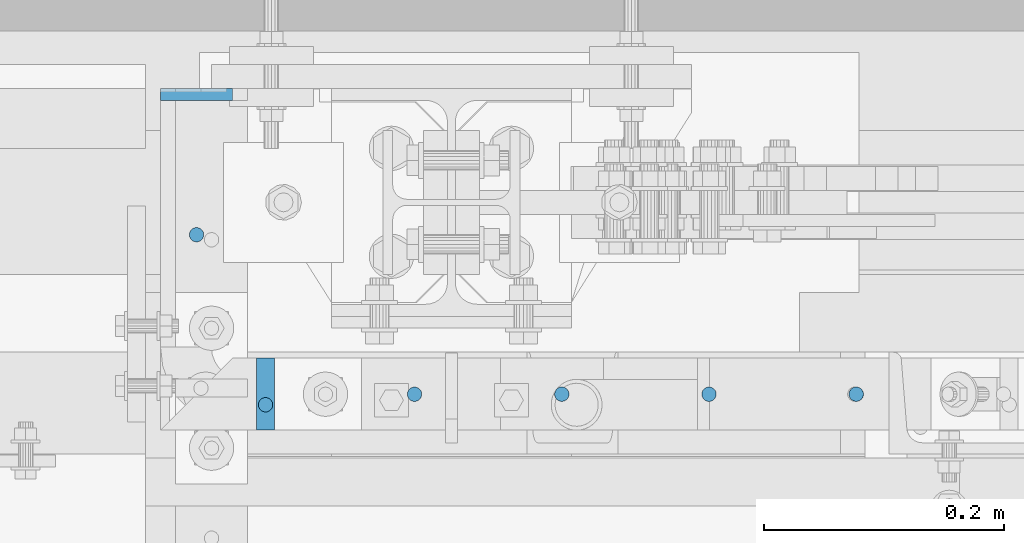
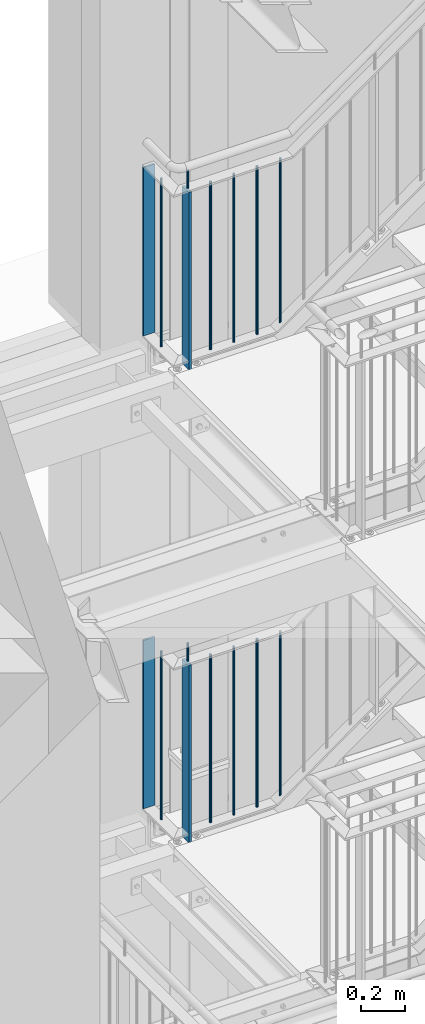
# One storey, part 64 of 831: 16 columns.
"""IFC2X3 building model written with IfcOpenShell, lengths in millimetres."""

from ifc_helpers import new_model, entity, si_unit, converted_unit, frame, origin, origin_with_axes, origin_2d, place, context, project, spatial, rectangle, circle, extrude, clip, halfspace, material, element, save


model = new_model("IFC2X3")

# Units and contexts
model_context = context("Model", 3, precision=1e-09, world=origin_with_axes())
ifc_project = project(units=[si_unit("LENGTHUNIT", "METRE", prefix="MILLI"), si_unit("AREAUNIT", "SQUARE_METRE"), si_unit("VOLUMEUNIT", "CUBIC_METRE"), converted_unit("PLANEANGLEUNIT", "DEGREE", entity("IfcPlaneAngleMeasure", 0.01745329), si_unit("PLANEANGLEUNIT", "RADIAN"), dimensions=[0, 0, 0, 0, 0, 0, 0])], contexts=[model_context])

# Site, building, storey
site_placement = place(None, origin_with_axes())
site = spatial("IfcSite", under=ifc_project, at=site_placement, Name="Site", CompositionType="ELEMENT")
building_placement = place(site_placement, origin_with_axes())
building = spatial("IfcBuilding", under=site, at=building_placement, Name="Struktur 1", CompositionType="ELEMENT")
storey_placement = place(building_placement, origin_with_axes())
storey = spatial("IfcBuildingStorey", under=building, at=storey_placement, Name="Default Storey", CompositionType="ELEMENT", Elevation=0.0)

# Columns
ifc_material = material(Name="S235JR")
column_1_placement = place(None, frame((4701.713402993, 7356.736971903, 13618.723292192), z_axis=(0.0, 0.0, 1.0), x_axis=(1.0, 0.0, 0.0)))
element("IfcColumn", 1, at=column_1_placement, inside=storey, material=ifc_material, Name="Railing_Post_Landing#0", ObjectType="Railing_Post_Landing#0", context=model_context, shape_type="Clipping", body=[
    clip(clip(extrude(rectangle(XDim=15.0, YDim=60.0, at=origin_2d()), origin(), (0.0, 0.0, -1.0), 1070.646584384), halfspace(frame((-4701.713402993, -7356.736971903, -1019.722292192), z_axis=(0.0, 0.0, 1.0), x_axis=(1.0, 0.0, 0.0)), True)), halfspace(frame((-4701.713402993, -7356.736971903, -30.924292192), z_axis=(0.0, 0.0, -1.0), x_axis=(-1.0, 0.0, 0.0)), True)),
])
column_2_placement = place(None, frame((4825.963402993, 7356.736971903, 13601.285281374), z_axis=(0.0, 0.0, 1.0), x_axis=(1.0, 0.0, 0.0)))
element("IfcColumn", 2, at=column_2_placement, inside=storey, material=ifc_material, Name="Railing_Picket_Landing#0", ObjectType="Railing_Picket_Landing#0", context=model_context, shape_type="Clipping", body=[
    clip(clip(extrude(circle(Radius=6.0, at=origin_2d()), origin(), (0.0, 0.0, -1.0), 965.770562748), halfspace(frame((-4825.963402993, -7356.736971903, -13.486281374), z_axis=(0.0, 0.0, -1.0), x_axis=(-1.0, 0.0, 0.0)), True)), halfspace(frame((-4825.963402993, -7356.736971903, -952.284281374), z_axis=(0.0, 0.0, 1.0), x_axis=(1.0, 0.0, 0.0)), True)),
])
column_3_placement = place(None, frame((4948.713426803, 7356.736971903, 13601.285281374), z_axis=(0.0, 0.0, 1.0), x_axis=(1.0, 0.0, 0.0)))
element("IfcColumn", 3, at=column_3_placement, inside=storey, material=ifc_material, Name="Railing_Picket_Landing#1", ObjectType="Railing_Picket_Landing#1", context=model_context, shape_type="Clipping", body=[
    clip(clip(extrude(circle(Radius=6.0, at=origin_2d()), origin(), (0.0, 0.0, -1.0), 965.770562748), halfspace(frame((-4948.713426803, -7356.736971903, -13.486281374), z_axis=(0.0, 0.0, -1.0), x_axis=(-1.0, 0.0, 0.0)), True)), halfspace(frame((-4948.713426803, -7356.736971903, -952.284281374), z_axis=(0.0, 0.0, 1.0), x_axis=(1.0, 0.0, 0.0)), True)),
])
column_4_placement = place(None, frame((5071.463450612, 7356.736971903, 13601.285281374), z_axis=(0.0, 0.0, 1.0), x_axis=(1.0, 0.0, 0.0)))
element("IfcColumn", 4, at=column_4_placement, inside=storey, material=ifc_material, Name="Railing_Picket_Landing#2", ObjectType="Railing_Picket_Landing#2", context=model_context, shape_type="Clipping", body=[
    clip(clip(extrude(circle(Radius=6.0, at=origin_2d()), origin(), (0.0, 0.0, -1.0), 965.770562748), halfspace(frame((-5071.463450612, -7356.736971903, -13.486281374), z_axis=(0.0, 0.0, -1.0), x_axis=(-1.0, 0.0, 0.0)), True)), halfspace(frame((-5071.463450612, -7356.736971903, -952.284281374), z_axis=(0.0, 0.0, 1.0), x_axis=(1.0, 0.0, 0.0)), True)),
])
column_5_placement = place(None, frame((5194.213474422, 7356.736971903, 13587.8), z_axis=(0.0, 0.0, 1.0), x_axis=(1.0, 0.0, 0.0)))
element("IfcColumn", 5, at=column_5_placement, inside=storey, material=ifc_material, Name="Railing_Picket_Stair#3", ObjectType="Railing_Picket_Stair#3", context=model_context, shape_type="Clipping", body=[
    clip(extrude(circle(Radius=6.0, at=origin_2d()), origin(), (0.0, 0.0, -1.0), 923.624764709), halfspace(frame((-9428.542322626, -7356.736971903, -7738.480453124), z_axis=(-0.586383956, 0.0, 0.810033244), x_axis=(0.0, -1.0, 0.0)), True)),
])
column_6_placement = place(None, frame((4701.713402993, 7347.936971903, 13706.285281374), z_axis=(0.0, 0.0, 1.0), x_axis=(0.0, -1.0, 0.0)))
element("IfcColumn", 6, at=column_6_placement, inside=storey, material=ifc_material, Name="Bar#0", ObjectType="Bar#0", context=model_context, shape_type="Clipping", body=[
    clip(clip(extrude(circle(Radius=6.0, at=origin_2d()), origin(), (0.0, 0.0, -1.0), 116.970562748), halfspace(frame((7347.936971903, -4701.713402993, -8.486281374), z_axis=(0.0, 0.0, -1.0), x_axis=(0.0, -1.0, 0.0)), True)), halfspace(frame((7347.936971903, -4701.713402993, -108.484281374), z_axis=(0.0, 0.0, 1.0), x_axis=(0.0, 1.0, 0.0)), True)),
])
column_7_placement = place(None, frame((4701.713402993, 7356.736971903, 16253.723292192), z_axis=(0.0, 0.0, 1.0), x_axis=(1.0, 0.0, 0.0)))
element("IfcColumn", 7, at=column_7_placement, inside=storey, material=ifc_material, Name="Railing_Post_Landing#0", ObjectType="Railing_Post_Landing#0", context=model_context, shape_type="Clipping", body=[
    clip(clip(extrude(rectangle(XDim=15.0, YDim=60.0, at=origin_2d()), origin(), (0.0, 0.0, -1.0), 1070.646584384), halfspace(frame((-4701.713402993, -7356.736971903, -1019.722292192), z_axis=(0.0, 0.0, 1.0), x_axis=(1.0, 0.0, 0.0)), True)), halfspace(frame((-4701.713402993, -7356.736971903, -30.924292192), z_axis=(0.0, 0.0, -1.0), x_axis=(-1.0, 0.0, 0.0)), True)),
])
column_8_placement = place(None, frame((4825.963402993, 7356.736971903, 16236.285281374), z_axis=(0.0, 0.0, 1.0), x_axis=(1.0, 0.0, 0.0)))
element("IfcColumn", 8, at=column_8_placement, inside=storey, material=ifc_material, Name="Railing_Picket_Landing#0", ObjectType="Railing_Picket_Landing#0", context=model_context, shape_type="Clipping", body=[
    clip(clip(extrude(circle(Radius=6.0, at=origin_2d()), origin(), (0.0, 0.0, -1.0), 965.770562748), halfspace(frame((-4825.963402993, -7356.736971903, -13.486281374), z_axis=(0.0, 0.0, -1.0), x_axis=(-1.0, 0.0, 0.0)), True)), halfspace(frame((-4825.963402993, -7356.736971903, -952.284281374), z_axis=(0.0, 0.0, 1.0), x_axis=(1.0, 0.0, 0.0)), True)),
])
column_9_placement = place(None, frame((4948.713426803, 7356.736971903, 16236.285281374), z_axis=(0.0, 0.0, 1.0), x_axis=(1.0, 0.0, 0.0)))
element("IfcColumn", 9, at=column_9_placement, inside=storey, material=ifc_material, Name="Railing_Picket_Landing#1", ObjectType="Railing_Picket_Landing#1", context=model_context, shape_type="Clipping", body=[
    clip(clip(extrude(circle(Radius=6.0, at=origin_2d()), origin(), (0.0, 0.0, -1.0), 965.770562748), halfspace(frame((-4948.713426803, -7356.736971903, -13.486281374), z_axis=(0.0, 0.0, -1.0), x_axis=(-1.0, 0.0, 0.0)), True)), halfspace(frame((-4948.713426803, -7356.736971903, -952.284281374), z_axis=(0.0, 0.0, 1.0), x_axis=(1.0, 0.0, 0.0)), True)),
])
column_10_placement = place(None, frame((5071.463450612, 7356.736971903, 16236.285281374), z_axis=(0.0, 0.0, 1.0), x_axis=(1.0, 0.0, 0.0)))
element("IfcColumn", 10, at=column_10_placement, inside=storey, material=ifc_material, Name="Railing_Picket_Landing#2", ObjectType="Railing_Picket_Landing#2", context=model_context, shape_type="Clipping", body=[
    clip(clip(extrude(circle(Radius=6.0, at=origin_2d()), origin(), (0.0, 0.0, -1.0), 965.770562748), halfspace(frame((-5071.463450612, -7356.736971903, -13.486281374), z_axis=(0.0, 0.0, -1.0), x_axis=(-1.0, 0.0, 0.0)), True)), halfspace(frame((-5071.463450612, -7356.736971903, -952.284281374), z_axis=(0.0, 0.0, 1.0), x_axis=(1.0, 0.0, 0.0)), True)),
])
column_11_placement = place(None, frame((5194.213474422, 7356.736971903, 16222.8), z_axis=(0.0, 0.0, 1.0), x_axis=(1.0, 0.0, 0.0)))
element("IfcColumn", 11, at=column_11_placement, inside=storey, material=ifc_material, Name="Railing_Picket_Stair#3", ObjectType="Railing_Picket_Stair#3", context=model_context, shape_type="Clipping", body=[
    clip(extrude(circle(Radius=6.0, at=origin_2d()), origin(), (0.0, 0.0, -1.0), 923.59799472), halfspace(frame((-10680.441346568, -7356.736971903, -8600.712420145), z_axis=(-0.584187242, 0.0, 0.811618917), x_axis=(0.0, -1.0, 0.0)), True)),
])
column_12_placement = place(None, frame((4701.713402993, 7347.936971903, 16341.285281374), z_axis=(0.0, 0.0, 1.0), x_axis=(0.0, -1.0, 0.0)))
element("IfcColumn", 12, at=column_12_placement, inside=storey, material=ifc_material, Name="Bar#0", ObjectType="Bar#0", context=model_context, shape_type="Clipping", body=[
    clip(clip(extrude(circle(Radius=6.0, at=origin_2d()), origin(), (0.0, 0.0, -1.0), 116.970562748), halfspace(frame((7347.936971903, -4701.713402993, -8.486281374), z_axis=(0.0, 0.0, -1.0), x_axis=(0.0, -1.0, 0.0)), True)), halfspace(frame((7347.936971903, -4701.713402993, -108.484281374), z_axis=(0.0, 0.0, 1.0), x_axis=(0.0, 1.0, 0.0)), True)),
])
column_13_placement = place(None, frame((4644.213402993, 7606.736971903, 15284.0), z_axis=(0.0, 0.0, -1.0), x_axis=(0.0, -1.0, 0.0)))
element("IfcColumn", 13, at=column_13_placement, inside=storey, material=ifc_material, Name="Railing_Kneerail_Landing#0", ObjectType="Railing_Kneerail_Landing#0", context=model_context, shape_type="SweptSolid", body=[
    extrude(rectangle(XDim=10.0, YDim=60.0, at=origin_2d()), origin(), (0.0, 0.0, -1.0), 938.8),
])
column_14_placement = place(None, frame((4644.213402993, 7489.736971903, 16236.285281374), z_axis=(0.0, 0.0, 1.0), x_axis=(1.0, 0.0, 0.0)))
element("IfcColumn", 14, at=column_14_placement, inside=storey, material=ifc_material, Name="Railing_Picket_Landing#0", ObjectType="Railing_Picket_Landing#0", context=model_context, shape_type="Clipping", body=[
    clip(clip(extrude(circle(Radius=6.0, at=origin_2d()), origin(), (0.0, 0.0, -1.0), 965.770562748), halfspace(frame((-4644.213402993, -7489.736971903, -13.486281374), z_axis=(0.0, 0.0, -1.0), x_axis=(-1.0, 0.0, 0.0)), True)), halfspace(frame((-4644.213402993, -7489.736971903, -952.284281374), z_axis=(0.0, 0.0, 1.0), x_axis=(1.0, 0.0, 0.0)), True)),
])
column_15_placement = place(None, frame((4644.213402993, 7606.736971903, 12649.0), z_axis=(0.0, 0.0, -1.0), x_axis=(0.0, -1.0, 0.0)))
element("IfcColumn", 15, at=column_15_placement, inside=storey, material=ifc_material, Name="Railing_Kneerail_Landing#0", ObjectType="Railing_Kneerail_Landing#0", context=model_context, shape_type="SweptSolid", body=[
    extrude(rectangle(XDim=10.0, YDim=60.0, at=origin_2d()), origin(), (0.0, 0.0, -1.0), 938.8),
])
column_16_placement = place(None, frame((4644.213402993, 7489.736971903, 13601.285281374), z_axis=(0.0, 0.0, 1.0), x_axis=(1.0, 0.0, 0.0)))
element("IfcColumn", 16, at=column_16_placement, inside=storey, material=ifc_material, Name="Railing_Picket_Landing#0", ObjectType="Railing_Picket_Landing#0", context=model_context, shape_type="Clipping", body=[
    clip(clip(extrude(circle(Radius=6.0, at=origin_2d()), origin(), (0.0, 0.0, -1.0), 965.770562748), halfspace(frame((-4644.213402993, -7489.736971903, -13.486281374), z_axis=(0.0, 0.0, -1.0), x_axis=(-1.0, 0.0, 0.0)), True)), halfspace(frame((-4644.213402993, -7489.736971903, -952.284281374), z_axis=(0.0, 0.0, 1.0), x_axis=(1.0, 0.0, 0.0)), True)),
])

save(model, "model.ifc")
